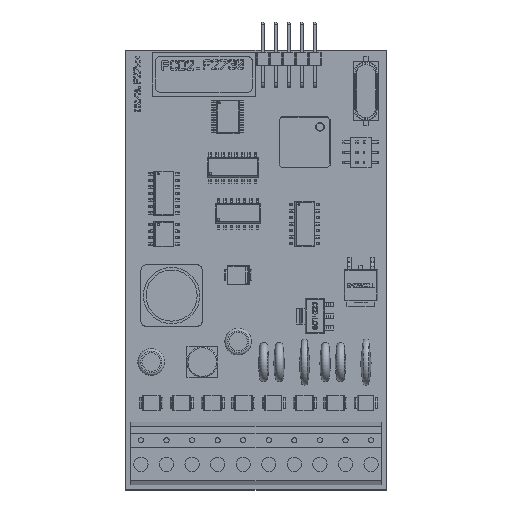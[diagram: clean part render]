
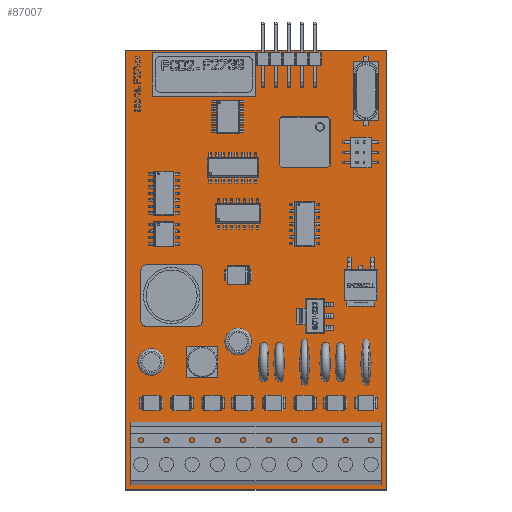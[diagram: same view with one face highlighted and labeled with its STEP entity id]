
A CAD part, top view. The second image highlights one B-rep face of the part: STEP entity #87007.
In plain terms, the highlighted planar face has unit normal (0, 0, 1).
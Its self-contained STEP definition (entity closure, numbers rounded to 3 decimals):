
#86878=VERTEX_POINT('',#86879);
#86879=CARTESIAN_POINT('',(0.0,86.0,1.6));
#86885=EDGE_CURVE('',#86878,#86886,#86888,.T.);
#86886=VERTEX_POINT('',#86887);
#86887=CARTESIAN_POINT('',(51.0,86.0,1.6));
#86888=LINE('',#86889,#86890);
#86889=CARTESIAN_POINT('',(0.0,86.0,1.6));
#86890=VECTOR('',#86891,1.0);
#86891=DIRECTION('',(1.0,0.0,0.0));
#86916=EDGE_CURVE('',#86886,#86917,#86919,.T.);
#86917=VERTEX_POINT('',#86918);
#86918=CARTESIAN_POINT('',(51.0,0.0,1.6));
#86919=LINE('',#86920,#86921);
#86920=CARTESIAN_POINT('',(51.0,86.0,1.6));
#86921=VECTOR('',#86922,1.0);
#86922=DIRECTION('',(0.0,-1.0,0.0));
#86947=EDGE_CURVE('',#86917,#86948,#86950,.T.);
#86948=VERTEX_POINT('',#86949);
#86949=CARTESIAN_POINT('',(0.0,0.0,1.6));
#86950=LINE('',#86951,#86952);
#86951=CARTESIAN_POINT('',(51.0,0.0,1.6));
#86952=VECTOR('',#86953,1.0);
#86953=DIRECTION('',(-1.0,0.0,0.0));
#86978=EDGE_CURVE('',#86948,#86878,#86979,.T.);
#86979=LINE('',#86980,#86981);
#86980=CARTESIAN_POINT('',(0.0,0.0,1.6));
#86981=VECTOR('',#86982,1.0);
#86982=DIRECTION('',(0.0,1.0,0.0));
#87007=ADVANCED_FACE('',(#87008),#87014,.F.);
#87008=FACE_BOUND('',#87009,.T.);
#87009=EDGE_LOOP('',(#87010,#87011,#87012,#87013));
#87010=ORIENTED_EDGE('',*,*,#86978,.F.);
#87011=ORIENTED_EDGE('',*,*,#86947,.F.);
#87012=ORIENTED_EDGE('',*,*,#86916,.F.);
#87013=ORIENTED_EDGE('',*,*,#86885,.F.);
#87014=PLANE('',#87015);
#87015=AXIS2_PLACEMENT_3D('',#87016,#87017,#87018);
#87016=CARTESIAN_POINT('',(25.5,43.0,1.6));
#87017=DIRECTION('',(0.0,0.0,-1.0));
#87018=DIRECTION('',(-1.0,0.0,0.0));
